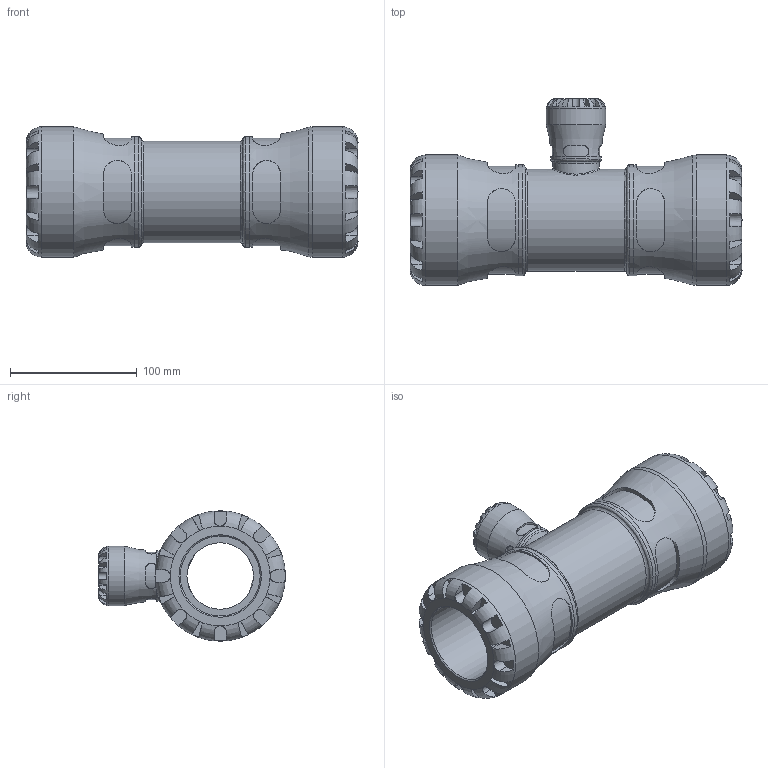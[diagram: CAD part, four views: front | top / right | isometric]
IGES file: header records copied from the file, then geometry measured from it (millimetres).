
Global section: file name: 103400063025_193400063025.ipt; native system: Autodesk Inventor 2015; preprocessor: unknown; author: KIM; date: 20170122.114108; units: millimetre
Bounding box: 262 x 147.5 x 103 mm (x, y, z)
Volume: 1001130.8 mm3; surface area: 156690.8 mm2
Topology: 1 solids, 1 shells, 287 faces, 749 edges, 477 vertices
Faces by surface type: plane 174, revolution 68, cylinder 44, bspline 1
Full cylindrical faces by diameter (mm): 36.66 x1, 39.95 x1, 47 x1, 80.34 x1, 87.55 x2, 103 x2
